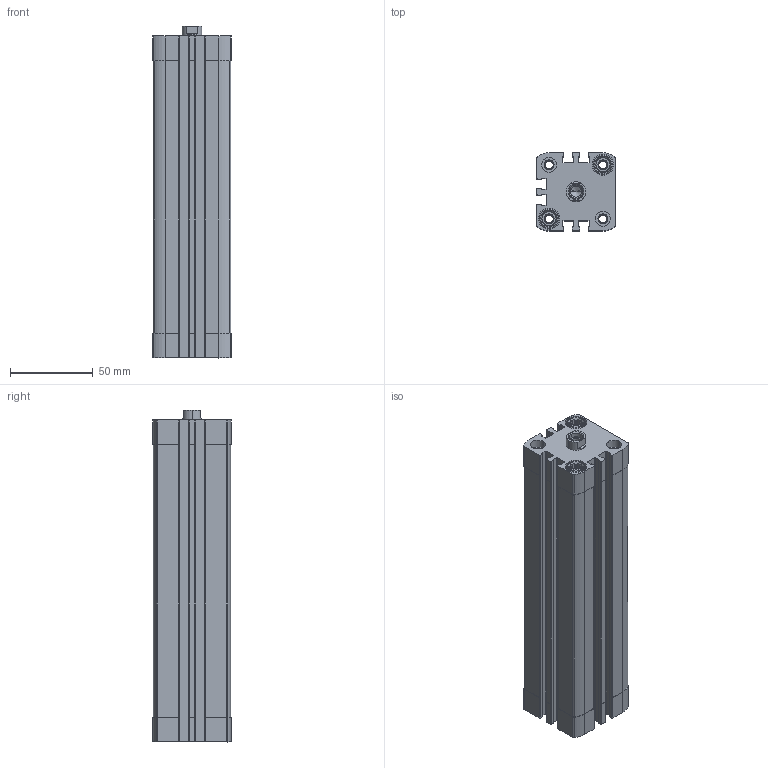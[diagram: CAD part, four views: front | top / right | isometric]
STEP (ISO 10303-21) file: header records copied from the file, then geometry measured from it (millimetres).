
FILE_DESCRIPTION (( 'STEP AP203' ), '1' );
FILE_NAME ('CCN32-150F.STEP', '2017-03-29T11:38:51', ( '' ), ( '' ), 'SwSTEP 2.0', 'SolidWorks 2016', '' );
FILE_SCHEMA (( 'CONFIG_CONTROL_DESIGN' ));
Length unit declared in the file: millimetre
Products named in the file (3): CCN32-150F; CCN-150--(Z); CCN-150_(KS)
Assembly tree (2 placements, depth 2):
  CCN32-150F
    CCN-150--(Z)
    CCN-150_(KS)
Bounding box: 47 x 47 x 200 mm (x, y, z)
Volume: 247668.3 mm3; surface area: 98751.3 mm2
Topology: 2 solids, 2 shells, 479 faces, 1302 edges, 857 vertices
Faces by surface type: plane 267, cylinder 170, cone 42
Entity records: 15629 total; most frequent: CARTESIAN_POINT 2935, DIRECTION 2660, ORIENTED_EDGE 2600, EDGE_CURVE 1300, AXIS2_PLACEMENT_3D 974, VERTEX_POINT 857, VECTOR 712, LINE 712
